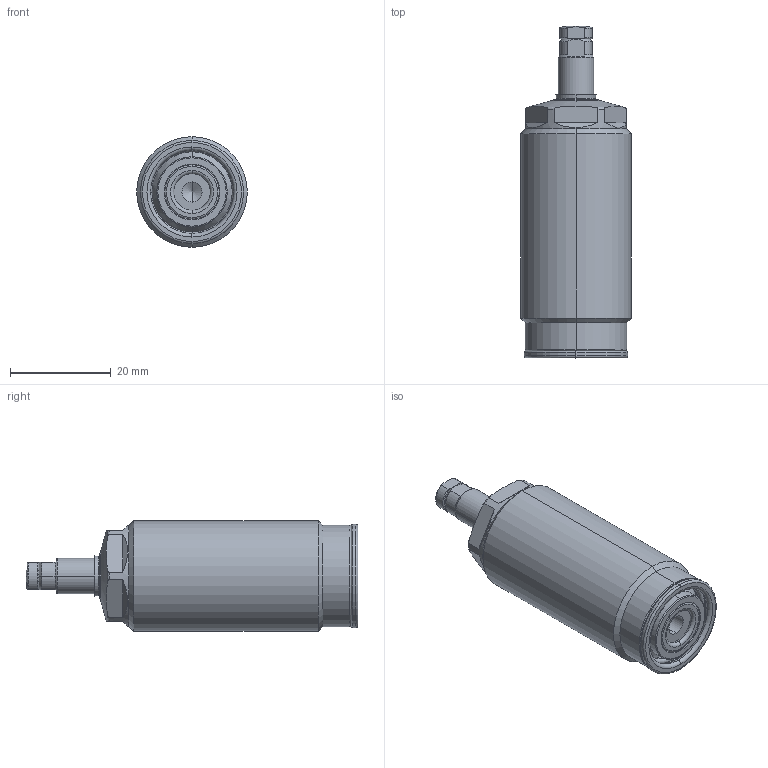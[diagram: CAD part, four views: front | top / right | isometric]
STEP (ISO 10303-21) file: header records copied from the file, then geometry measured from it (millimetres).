
FILE_DESCRIPTION(/* description */ (''),/* implementation_level */ '2;1');
FILE_NAME(/* name */ 'TSS22.stp',/* time_stamp */ '2026-02-04T13:28:12+08:00',/* author */ (''),/* organization */ (''),/* preprocessor_version */ 'ST-DEVELOPER v16.7',/* originating_system */ 'SIEMENS PLM Software NX 12.0',/* authorisation */ '');
FILE_SCHEMA (('AUTOMOTIVE_DESIGN { 1 0 10303 214 3 1 1 1 }'));
Length unit declared in the file: millimetre
Products named in the file (7): XLD-M4_contactbolt5308; XLD-M4_Oring5263; TSS22-02; AS568-017(90) -04; TSS22-01; TSS22-03; LD0223-x-E_step
Assembly tree (6 placements, depth 3):
  LD0223-x-E_step
    TSS22-01
    TSS22-03
      XLD-M4_Oring5263
      XLD-M4_contactbolt5308
    AS568-017(90) -04
    TSS22-02
Bounding box: 22 x 66 x 22 mm (x, y, z)
Volume: 18144.4 mm3; surface area: 5727.6 mm2
Topology: 5 solids, 5 shells, 172 faces, 375 edges, 220 vertices
Faces by surface type: torus 60, cylinder 43, plane 35, cone 32, sphere 2
Entity records: 5181 total; most frequent: CARTESIAN_POINT 1174, DIRECTION 919, ORIENTED_EDGE 746, AXIS2_PLACEMENT_3D 409, EDGE_CURVE 373, CIRCLE 230, VERTEX_POINT 220, EDGE_LOOP 185
